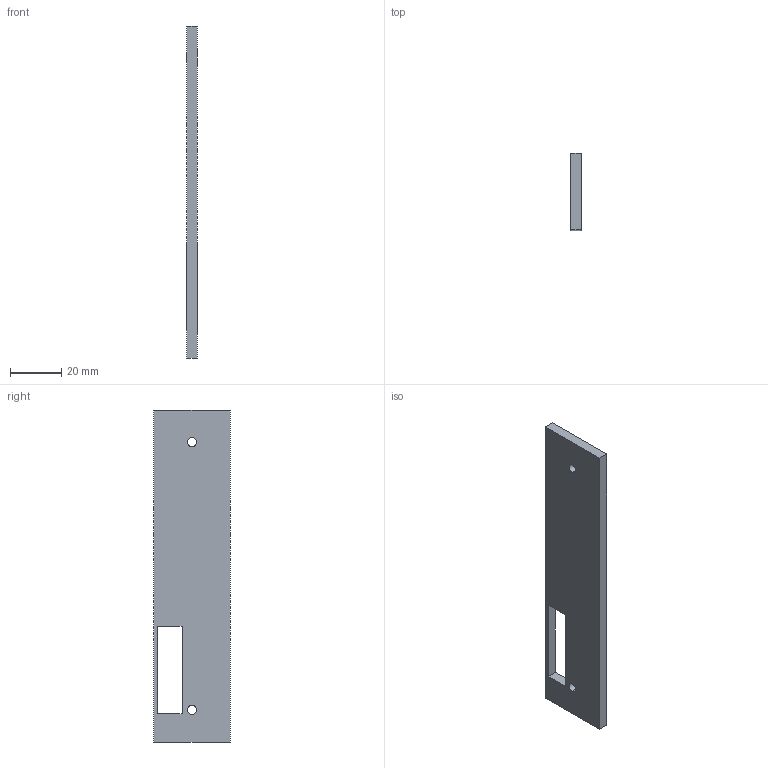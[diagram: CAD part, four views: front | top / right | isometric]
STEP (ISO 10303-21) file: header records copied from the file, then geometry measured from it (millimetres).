
FILE_DESCRIPTION (( 'STEP AP214' ), '1' );
FILE_NAME ('Jetson_node_zero_left.STEP', '2015-02-27T03:15:24', ( '' ), ( '' ), '', '', '' );
FILE_SCHEMA (( '' ));
Length unit declared in the file: millimetre
Products named in the file (1): Jetson_node_zero_left
Bounding box: 4 x 29.75 x 129 mm (x, y, z)
Volume: 13950.2 mm3; surface area: 8683.5 mm2
Topology: 1 solids, 1 shells, 18 faces, 44 edges, 28 vertices
Faces by surface type: plane 10, cone 4, cylinder 4
Entity records: 563 total; most frequent: DIRECTION 94, CARTESIAN_POINT 91, ORIENTED_EDGE 88, EDGE_CURVE 44, LINE 32, VECTOR 32, AXIS2_PLACEMENT_3D 31, VERTEX_POINT 28
